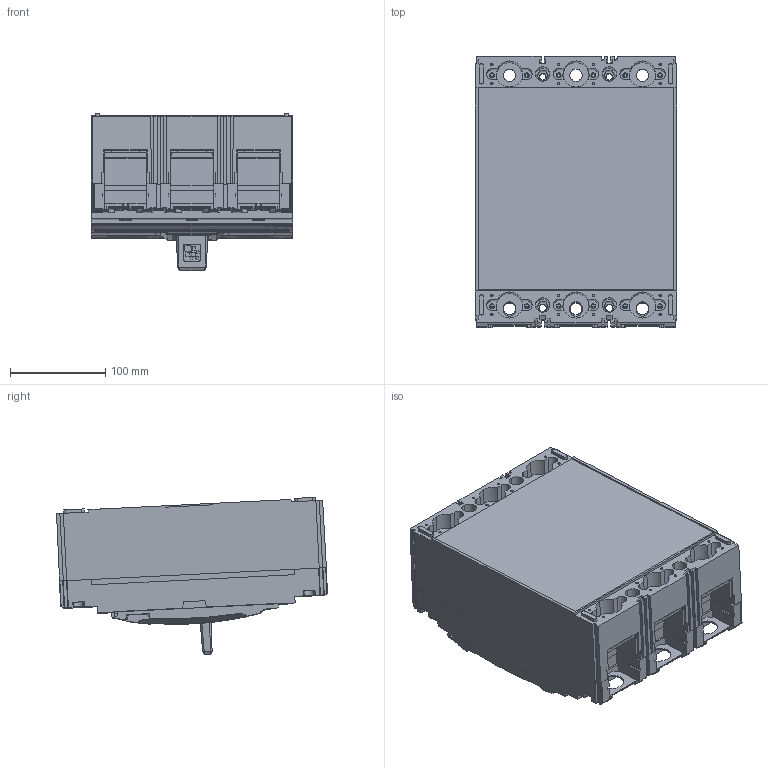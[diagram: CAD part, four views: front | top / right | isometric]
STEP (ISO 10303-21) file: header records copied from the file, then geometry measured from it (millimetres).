
FILE_DESCRIPTION((''),'2;1');
FILE_NAME('ASM0001_ASM','2018-05-11T',('Administrator'),(''),'PRO/ENGINEER BY PARAMETRIC TECHNOLOGY CORPORATION, 2017170','PRO/ENGINEER BY PARAMETRIC TECHNOLOGY CORPORATION, 2017170','');
FILE_SCHEMA(('CONFIG_CONTROL_DESIGN'));
Products named in the file (9): 8TZD-024-1127_X; 8TZD_585_1387_X; 8TZD_585_1097; 8TZD_585_1096; 8TZD_315_1567_X; 8TZD_315_1569_X; 8TZD-253-1025_A; 8TZD_315_1570_X; ASM0001_ASM
Assembly tree (14 placements, depth 2):
  ASM0001_ASM
    8TZD-024-1127_X
    8TZD_585_1387_X  x3
    8TZD_585_1097  x3
    8TZD_585_1096  x3
    8TZD_315_1567_X
    8TZD_315_1569_X
    8TZD-253-1025_A
    8TZD_315_1570_X
Bounding box: 212 x 284.99 x 165.53 mm (x, y, z)
Volume: 6059625 mm3; surface area: 744284 mm2
Topology: 14 solids, 85 shells, 4229 faces, 11610 edges, 7552 vertices
Faces by surface type: plane 2597, cylinder 1043, bspline 240, torus 226, extrusion 73, sphere 34, cone 16
Entity records: 140549 total; most frequent: CARTESIAN_POINT 37060, ORIENTED_EDGE 22322, DIRECTION 20352, EDGE_CURVE 11194, VECTOR 7744, LINE 7671, VERTEX_POINT 7296, AXIS2_PLACEMENT_3D 6304
